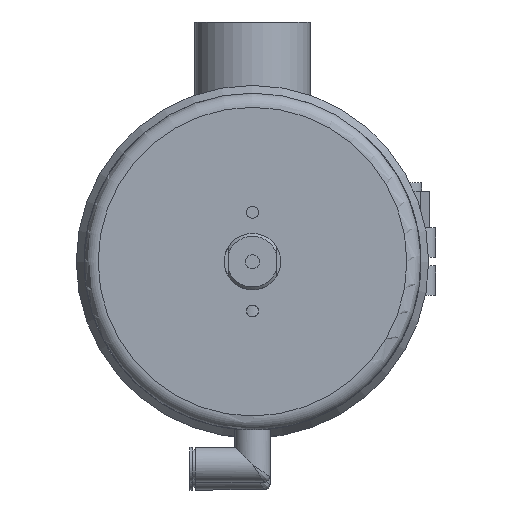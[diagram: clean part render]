
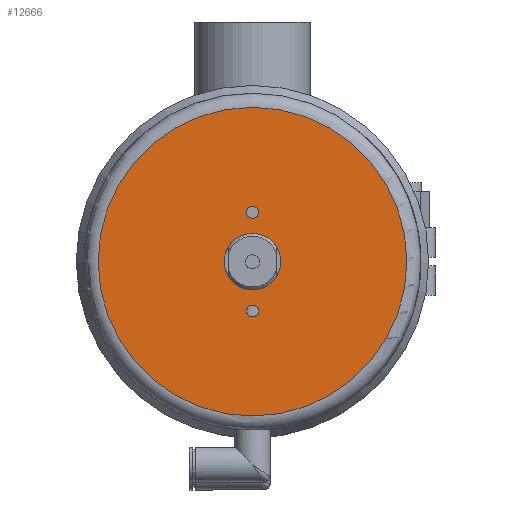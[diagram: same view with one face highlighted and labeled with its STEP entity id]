
A CAD part, front view. The second image highlights one B-rep face of the part: STEP entity #12666.
In plain terms, the highlighted planar face has unit normal (0, -1, 0) as drawn and (0, 1, 0) by its records, which use the part's own axes.
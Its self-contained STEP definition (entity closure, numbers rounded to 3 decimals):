
#166 = FACE_BOUND ( 'NONE', #2885, .T. ) ;
#2400 = ORIENTED_EDGE ( 'NONE', *, *, #10274, .F. ) ;
#2885 = EDGE_LOOP ( 'NONE', ( #11959 ) ) ;
#3327 = EDGE_CURVE ( 'NONE', #14747, #14747, #5959, .T. ) ;
#4201 = VERTEX_POINT ( 'NONE', #15478 ) ;
#4325 = AXIS2_PLACEMENT_3D ( 'NONE', #19068, #8261, #8021 ) ;
#5399 = DIRECTION ( 'NONE',  ( 0., 0., -1. ) ) ;
#5625 = ORIENTED_EDGE ( 'NONE', *, *, #3327, .T. ) ;
#5637 = CARTESIAN_POINT ( 'NONE',  ( -59.75, 214., 0. ) ) ;
#5959 = CIRCLE ( 'NONE', #19380, 10. ) ;
#6413 = DIRECTION ( 'NONE',  ( 0., 1., 0. ) ) ;
#7219 = DIRECTION ( 'NONE',  ( 0., -1., 0. ) ) ;
#7561 = EDGE_LOOP ( 'NONE', ( #18039 ) ) ;
#8021 = DIRECTION ( 'NONE',  ( 0., 0., 1. ) ) ;
#8261 = DIRECTION ( 'NONE',  ( 0., 1., 0. ) ) ;
#8486 = CIRCLE ( 'NONE', #10026, 2.1 ) ;
#8677 = DIRECTION ( 'NONE',  ( 0., 1., 0. ) ) ;
#8908 = EDGE_LOOP ( 'NONE', ( #5625 ) ) ;
#9898 = DIRECTION ( 'NONE',  ( 0., 0., -1. ) ) ;
#10026 = AXIS2_PLACEMENT_3D ( 'NONE', #12616, #8677, #23532 ) ;
#10074 = CIRCLE ( 'NONE', #23476, 54.75 ) ;
#10274 = EDGE_CURVE ( 'NONE', #15108, #15108, #20032, .T. ) ;
#10580 = EDGE_CURVE ( 'NONE', #4201, #4201, #10074, .T. ) ;
#11959 = ORIENTED_EDGE ( 'NONE', *, *, #12293, .F. ) ;
#12293 = EDGE_CURVE ( 'NONE', #17760, #17760, #8486, .T. ) ;
#12616 = CARTESIAN_POINT ( 'NONE',  ( 0., 214., 17.5 ) ) ;
#12666 = ADVANCED_FACE ( 'NONE', ( #12941, #166, #14631, #20153 ), #21954, .F. ) ;
#12941 = FACE_BOUND ( 'NONE', #18662, .T. ) ;
#14147 = CARTESIAN_POINT ( 'NONE',  ( 0., 214., 19.6 ) ) ;
#14631 = FACE_OUTER_BOUND ( 'NONE', #7561, .T. ) ;
#14747 = VERTEX_POINT ( 'NONE', #14873 ) ;
#14873 = CARTESIAN_POINT ( 'NONE',  ( 0., 214., -10. ) ) ;
#15108 = VERTEX_POINT ( 'NONE', #20623 ) ;
#15478 = CARTESIAN_POINT ( 'NONE',  ( 0., 214., -54.75 ) ) ;
#17711 = AXIS2_PLACEMENT_3D ( 'NONE', #5637, #7219, #5399 ) ;
#17760 = VERTEX_POINT ( 'NONE', #14147 ) ;
#18039 = ORIENTED_EDGE ( 'NONE', *, *, #10580, .T. ) ;
#18662 = EDGE_LOOP ( 'NONE', ( #2400 ) ) ;
#18893 = CARTESIAN_POINT ( 'NONE',  ( 0., 214., 0. ) ) ;
#19068 = CARTESIAN_POINT ( 'NONE',  ( 0., 214., -17.5 ) ) ;
#19380 = AXIS2_PLACEMENT_3D ( 'NONE', #18893, #20571, #9898 ) ;
#19942 = DIRECTION ( 'NONE',  ( 0., 0., -1. ) ) ;
#20032 = CIRCLE ( 'NONE', #4325, 2.1 ) ;
#20153 = FACE_BOUND ( 'NONE', #8908, .T. ) ;
#20571 = DIRECTION ( 'NONE',  ( 0., -1., 0. ) ) ;
#20623 = CARTESIAN_POINT ( 'NONE',  ( 0., 214., -15.4 ) ) ;
#21954 = PLANE ( 'NONE',  #17711 ) ;
#22827 = CARTESIAN_POINT ( 'NONE',  ( 0., 214., 0. ) ) ;
#23476 = AXIS2_PLACEMENT_3D ( 'NONE', #22827, #6413, #19942 ) ;
#23532 = DIRECTION ( 'NONE',  ( 0., 0., 1. ) ) ;
